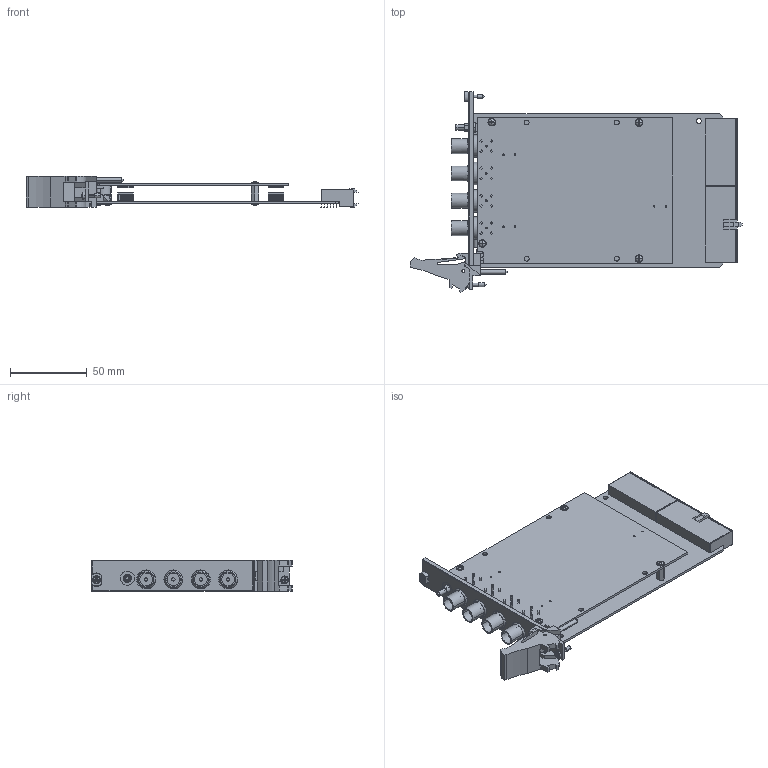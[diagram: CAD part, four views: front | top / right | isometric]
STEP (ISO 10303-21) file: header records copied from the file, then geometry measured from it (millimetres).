
FILE_DESCRIPTION((''),'2;1');
FILE_NAME('CD_PXI-4461_2','2008-08-28T',('scarrasc'),(''),'PRO/ENGINEER BY PARAMETRIC TECHNOLOGY CORPORATION, 2006300','PRO/ENGINEER BY PARAMETRIC TECHNOLOGY CORPORATION, 2006300','');
FILE_SCHEMA(('CONFIG_CONTROL_DESIGN'));
Length unit declared in the file: inch
Products named in the file (1): CD_PXI-4461_2
Bounding box: 216.08 x 130.5 x 20.19 mm (x, y, z)
Volume: 83720.1 mm3; surface area: 80212.6 mm2
Topology: 6 solids, 7 shells, 1718 faces, 4564 edges, 3012 vertices
Faces by surface type: plane 1322, cylinder 342, cone 30, sphere 20, torus 4
Entity records: 54514 total; most frequent: CARTESIAN_POINT 10362, ORIENTED_EDGE 9120, DIRECTION 8879, EDGE_CURVE 4560, VECTOR 3531, LINE 3531, VERTEX_POINT 3012, AXIS2_PLACEMENT_3D 2674
